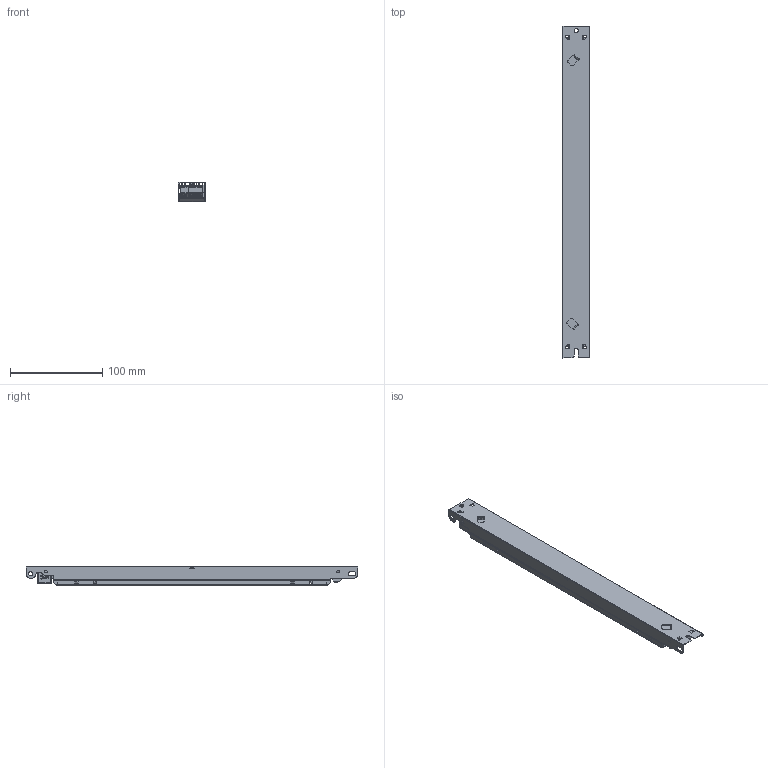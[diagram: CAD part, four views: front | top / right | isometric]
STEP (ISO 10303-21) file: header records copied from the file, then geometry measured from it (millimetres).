
FILE_DESCRIPTION (( 'STEP AP203' ), '1' );
FILE_NAME ('LL50SE-DA-100-1400-DS.STEP', '2022-11-23T21:53:30', ( '' ), ( '' ), 'SwSTEP 2.0', 'SolidWorks 2021', '' );
FILE_SCHEMA (( 'CONFIG_CONTROL_DESIGN' ));
Length unit declared in the file: millimetre
Products named in the file (1): LL50SE-DA-100-1400-DS
Bounding box: 30.28 x 360 x 20.9 mm (x, y, z)
Volume: 37556.4 mm3; surface area: 97150 mm2
Topology: 12 solids, 12 shells, 2045 faces, 5656 edges, 3694 vertices
Faces by surface type: plane 1393, cylinder 503, bspline 88, torus 31, cone 16, sphere 14
Entity records: 67743 total; most frequent: CARTESIAN_POINT 15676, ORIENTED_EDGE 11300, DIRECTION 10127, EDGE_CURVE 5650, VECTOR 4245, LINE 4245, VERTEX_POINT 3692, AXIS2_PLACEMENT_3D 2941
